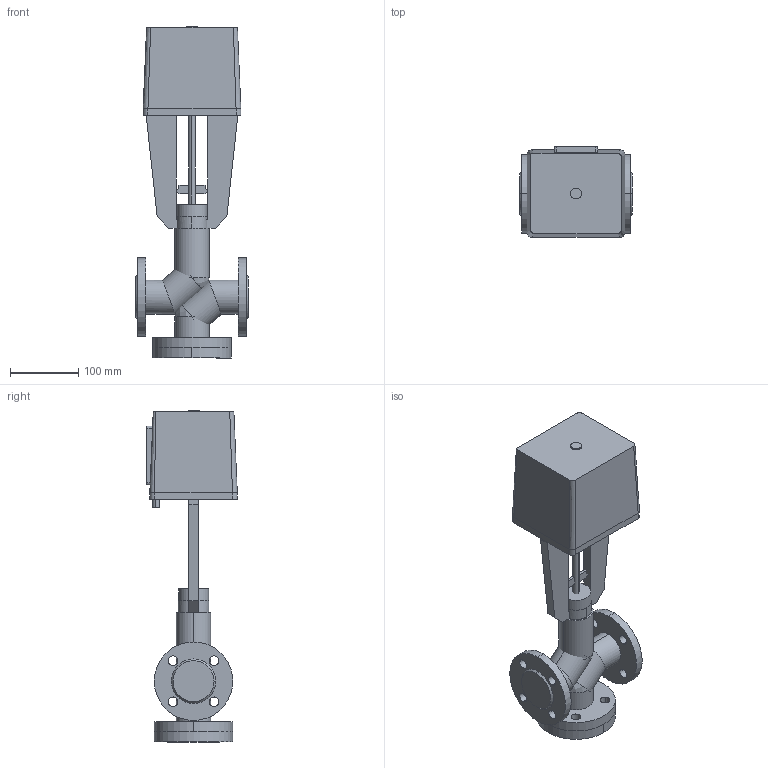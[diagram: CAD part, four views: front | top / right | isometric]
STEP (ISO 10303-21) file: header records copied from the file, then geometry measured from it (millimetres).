
FILE_DESCRIPTION(/* description */ (''),/* implementation_level */ '2;1');
FILE_NAME(/* name */ 'ТРК DN25 PN 2.5 МПа LEA 1200',/* time_stamp */ '2026-07-14T23:07:36+03:00',/* author */ (''),/* organization */ (''),/* preprocessor_version */ 'ST-DEVELOPER v20',/* originating_system */ '',/* authorisation */ '');
FILE_SCHEMA (('AP242_MANAGED_MODEL_BASED_3D_ENGINEERING_MIM_LF { 1 0 10303 442 1 1 4 }'));
Length unit declared in the file: millimetre
Products named in the file (14): TopLevelAssembly; Выдавливание; Модификатор; Модификатор_1; Выдавливание_
1; Выдавливание_
2; Вращение; Выдавливание_
3; Выдавливание_
4; 1600; Переход; Объемная геометрия 
присоединена; Полый Выдавливание; Объемная геометрия 
присоединена_1
Assembly tree (13 placements, depth 2):
  TopLevelAssembly
    Выдавливание
    Модификатор
    Модификатор_1
    Выдавливание_
1
    Выдавливание_
2
    Вращение
    Выдавливание_
3
    Выдавливание_
4
    1600
    Переход
    Объемная геометрия 
присоединена
    Полый Выдавливание
    Объемная геометрия 
присоединена_1
Bounding box: 165 x 132.49 x 486 mm (x, y, z)
Volume: 3646465.4 mm3; surface area: 378351 mm2
Topology: 18 solids, 18 shells, 159 faces, 366 edges, 240 vertices
Faces by surface type: plane 77, cylinder 70, bspline 8, cone 4
Entity records: 5155 total; most frequent: CARTESIAN_POINT 972, DIRECTION 882, ORIENTED_EDGE 716, EDGE_CURVE 358, AXIS2_PLACEMENT_3D 346, VERTEX_POINT 240, EDGE_LOOP 194, LINE 190
